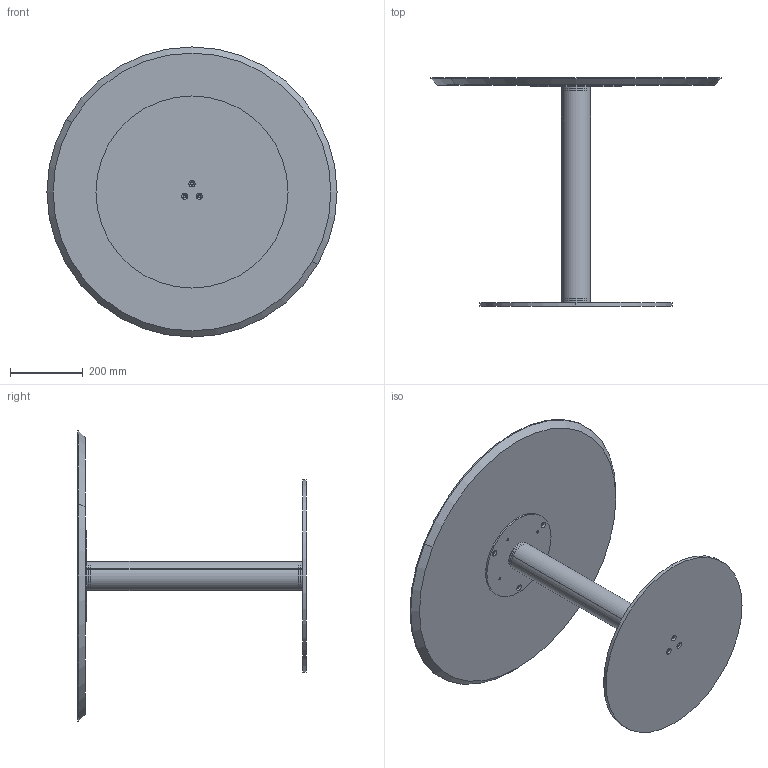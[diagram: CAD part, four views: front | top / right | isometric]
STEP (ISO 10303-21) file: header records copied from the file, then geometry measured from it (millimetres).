
FILE_DESCRIPTION (( 'STEP AP203' ), '1' );
FILE_NAME ('CB25W.STEP', '2024-08-08T08:42:31', ( '' ), ( '' ), 'SwSTEP 2.0', 'SolidWorks 2022', '' );
FILE_SCHEMA (( 'CONFIG_CONTROL_DESIGN' ));
Length unit declared in the file: millimetre
Products named in the file (7): CBS000000BAS-00-BISTRO PIASTRA INFERIORE_D.530; CBS200000PST-00-CONTROPIASTRA PER PIASTRA D.25cm GREZZO_250; CB25W; CBS000001COL-00-CILINDRO BISTRO COLONNA H63; CBS000001COL_02-00-CILINDRO BISTRO PIASTRA M8; W1XCMXX-00-Piani Rotondi legno_D.800 SP.20cm; CBS000001COL_01-00-CILINDRO BISTRO TUBO H63
Assembly tree (7 placements, depth 3):
  CB25W
    CBS000001COL-00-CILINDRO BISTRO COLONNA H63
      CBS000001COL_01-00-CILINDRO BISTRO TUBO H63
      CBS000001COL_02-00-CILINDRO BISTRO PIASTRA M8  x2
    CBS000000BAS-00-BISTRO PIASTRA INFERIORE_D.530
    CBS200000PST-00-CONTROPIASTRA PER PIASTRA D.25cm GREZZO_250
    W1XCMXX-00-Piani Rotondi legno_D.800 SP.20cm
Bounding box: 800 x 630 x 800 mm (x, y, z)
Volume: 12472254.1 mm3; surface area: 1904654.8 mm2
Topology: 6 solids, 6 shells, 110 faces, 258 edges, 156 vertices
Faces by surface type: cylinder 62, cone 36, plane 12
Entity records: 3679 total; most frequent: DIRECTION 584, CARTESIAN_POINT 477, ORIENTED_EDGE 452, AXIS2_PLACEMENT_3D 247, EDGE_CURVE 226, EDGE_LOOP 140, VERTEX_POINT 140, CIRCLE 136
